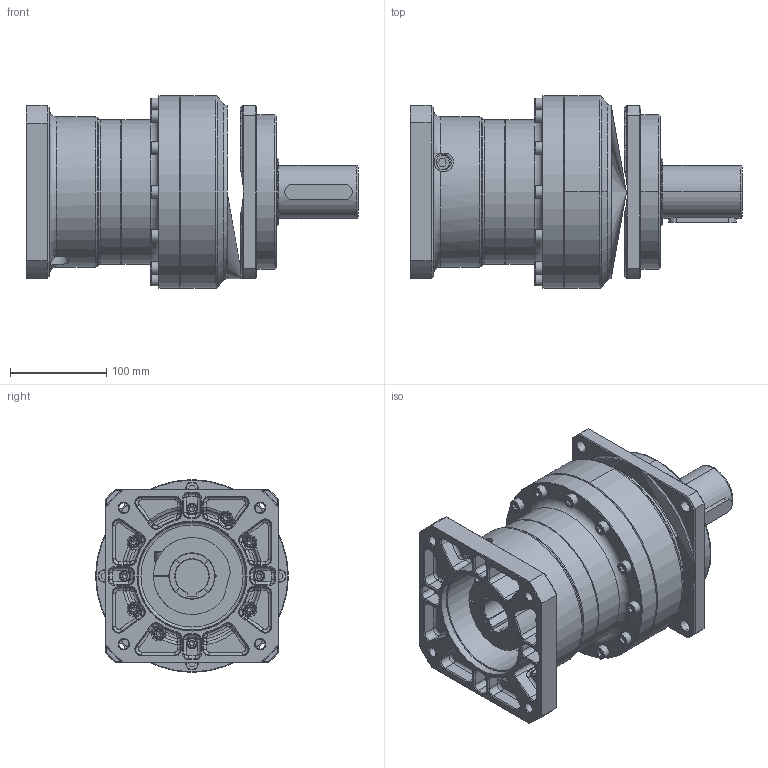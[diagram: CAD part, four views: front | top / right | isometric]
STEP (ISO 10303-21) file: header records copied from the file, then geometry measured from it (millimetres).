
FILE_DESCRIPTION(/* description */ (''),/* implementation_level */ '2;1');
FILE_NAME(/* name */ 'WEB180-L2-标准30C.stp',/* time_stamp */ '2025-07-30T14:08:13+08:00',/* author */ (''),/* organization */ (''),/* preprocessor_version */ 'ST-DEVELOPER v16.7',/* originating_system */ 'SIEMENS PLM Software NX 12.0',/* authorisation */ '');
FILE_SCHEMA (('AUTOMOTIVE_DESIGN { 1 0 10303 214 3 1 1 1 }'));
Length unit declared in the file: millimetre
Products named in the file (2): WVRB180-FL_stp; WB180-L2-标准30C_stp
Assembly tree (1 placements, depth 2):
  WB180-L2-标准30C_stp
    WVRB180-FL_stp
Bounding box: 344.5 x 200 x 200 mm (x, y, z)
Volume: 3655693.3 mm3; surface area: 507987.9 mm2
Topology: 5 solids, 6 shells, 1222 faces, 2754 edges, 1623 vertices
Faces by surface type: plane 440, cylinder 332, torus 194, cone 165, bspline 75, sphere 16
Full cylindrical faces by diameter (mm): 5 x12, 5.795 x10, 6.5 x10, 6.8 x12, 10 x12, 10.3 x4, 10.5 x1, 11.5 x10, 13 x12, 14.7 x1, 16 x3, 50 x1, 60 x2, 112 x1, 114.3 x1, 150 x2, 156 x1, 180 x2, 200 x1
Entity records: 34499 total; most frequent: CARTESIAN_POINT 7940, DIRECTION 5766, ORIENTED_EDGE 4860, EDGE_CURVE 2430, AXIS2_PLACEMENT_3D 2406, EDGE_LOOP 1550, VERTEX_POINT 1546, CIRCLE 1250
